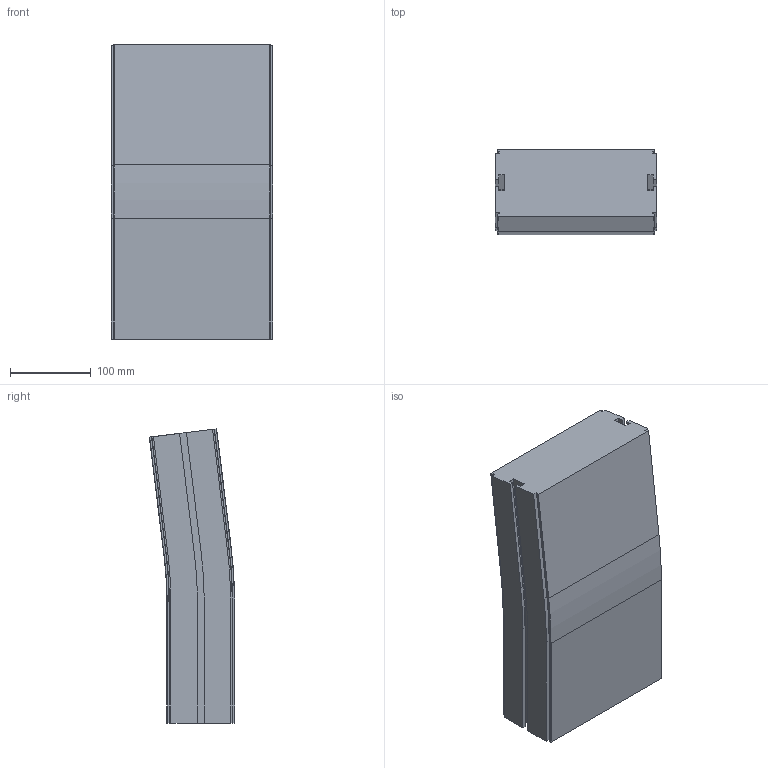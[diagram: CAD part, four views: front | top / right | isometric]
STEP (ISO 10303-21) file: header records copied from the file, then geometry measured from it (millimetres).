
FILE_DESCRIPTION (( 'STEP AP214' ), '1' );
FILE_NAME ('CS SL Verticaalbocht.200 7°.STEP', '2017-02-08T07:37:33', ( '' ), ( '' ), 'SwSTEP 2.0', 'SolidWorks 2016', '' );
FILE_SCHEMA (( 'AUTOMOTIVE_DESIGN' ));
Length unit declared in the file: millimetre
Products named in the file (1): CS SL Verticaalbocht.200 7°
Bounding box: 200 x 105.69 x 364.94 mm (x, y, z)
Volume: 5909047.4 mm3; surface area: 276087.1 mm2
Topology: 1 solids, 1 shells, 98 faces, 272 edges, 176 vertices
Faces by surface type: plane 72, cylinder 18, cone 8
Entity records: 3126 total; most frequent: CARTESIAN_POINT 547, ORIENTED_EDGE 544, DIRECTION 514, EDGE_CURVE 272, LINE 228, VECTOR 228, VERTEX_POINT 176, AXIS2_PLACEMENT_3D 143
